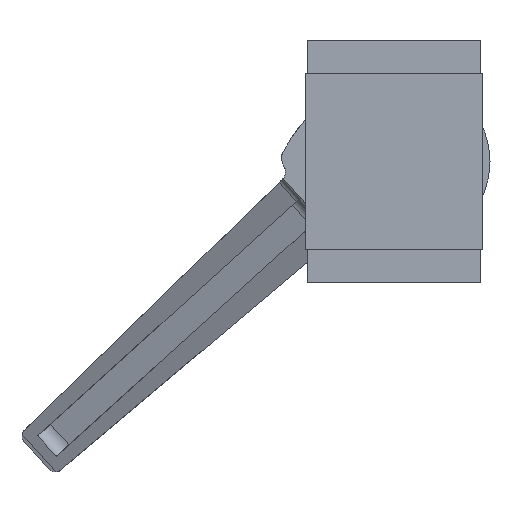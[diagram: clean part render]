
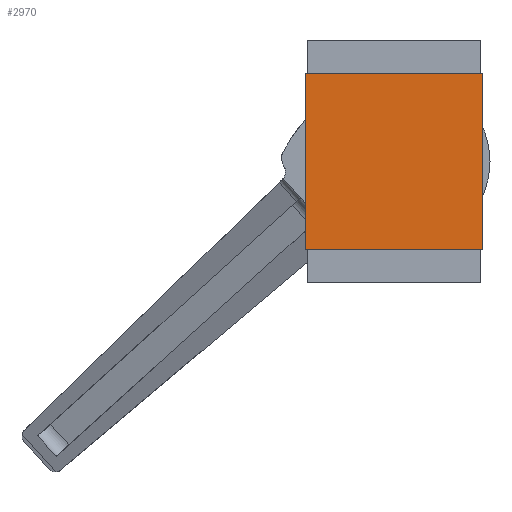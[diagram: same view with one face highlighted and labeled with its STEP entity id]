
A CAD part, left-side view. The second image highlights one B-rep face of the part: STEP entity #2970.
In plain terms, the highlighted planar face has unit normal (-1, 0, 0).
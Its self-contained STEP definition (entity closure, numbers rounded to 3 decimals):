
#11 = PLANE ( 'NONE',  #5404 ) ;
#489 = LINE ( 'NONE', #2858, #4406 ) ;
#725 = CARTESIAN_POINT ( 'NONE',  ( -22.5, 0., 12.7 ) ) ;
#765 = EDGE_CURVE ( 'NONE', #3812, #3353, #1575, .T. ) ;
#807 = DIRECTION ( 'NONE',  ( 0., 0., -1. ) ) ;
#1178 = DIRECTION ( 'NONE',  ( 0., 1., 0. ) ) ;
#1575 = LINE ( 'NONE', #1652, #2105 ) ;
#1652 = CARTESIAN_POINT ( 'NONE',  ( -22.5, 0., -12.7 ) ) ;
#1846 = ORIENTED_EDGE ( 'NONE', *, *, #2342, .F. ) ;
#2076 = CARTESIAN_POINT ( 'NONE',  ( -22.5, 0., 12.7 ) ) ;
#2105 = VECTOR ( 'NONE', #4552, 1000. ) ;
#2342 = EDGE_CURVE ( 'NONE', #2593, #3353, #5604, .T. ) ;
#2360 = CARTESIAN_POINT ( 'NONE',  ( -22.5, -25.4, 12.7 ) ) ;
#2379 = CARTESIAN_POINT ( 'NONE',  ( -22.5, 0., 12.7 ) ) ;
#2554 = ORIENTED_EDGE ( 'NONE', *, *, #765, .T. ) ;
#2593 = VERTEX_POINT ( 'NONE', #2360 ) ;
#2858 = CARTESIAN_POINT ( 'NONE',  ( -22.5, 0., 12.7 ) ) ;
#2966 = DIRECTION ( 'NONE',  ( 1., 0., 0. ) ) ;
#2970 = ADVANCED_FACE ( 'NONE', ( #7708 ), #11, .F. ) ;
#3353 = VERTEX_POINT ( 'NONE', #6260 ) ;
#3812 = VERTEX_POINT ( 'NONE', #3963 ) ;
#3826 = DIRECTION ( 'NONE',  ( 0., 0., -1. ) ) ;
#3963 = CARTESIAN_POINT ( 'NONE',  ( -22.5, 0., -12.7 ) ) ;
#4077 = VERTEX_POINT ( 'NONE', #2076 ) ;
#4406 = VECTOR ( 'NONE', #6263, 1000. ) ;
#4552 = DIRECTION ( 'NONE',  ( 0., -1., 0. ) ) ;
#4723 = EDGE_CURVE ( 'NONE', #4077, #2593, #489, .T. ) ;
#4792 = VECTOR ( 'NONE', #3826, 1000. ) ;
#5056 = CARTESIAN_POINT ( 'NONE',  ( -22.5, -25.4, 12.7 ) ) ;
#5059 = ORIENTED_EDGE ( 'NONE', *, *, #4723, .F. ) ;
#5247 = EDGE_CURVE ( 'NONE', #4077, #3812, #6737, .T. ) ;
#5404 = AXIS2_PLACEMENT_3D ( 'NONE', #2379, #2966, #1178 ) ;
#5604 = LINE ( 'NONE', #5056, #5947 ) ;
#5685 = EDGE_LOOP ( 'NONE', ( #2554, #1846, #5059, #7675 ) ) ;
#5947 = VECTOR ( 'NONE', #807, 1000. ) ;
#6260 = CARTESIAN_POINT ( 'NONE',  ( -22.5, -25.4, -12.7 ) ) ;
#6263 = DIRECTION ( 'NONE',  ( 0., -1., 0. ) ) ;
#6737 = LINE ( 'NONE', #725, #4792 ) ;
#7675 = ORIENTED_EDGE ( 'NONE', *, *, #5247, .T. ) ;
#7708 = FACE_OUTER_BOUND ( 'NONE', #5685, .T. ) ;
